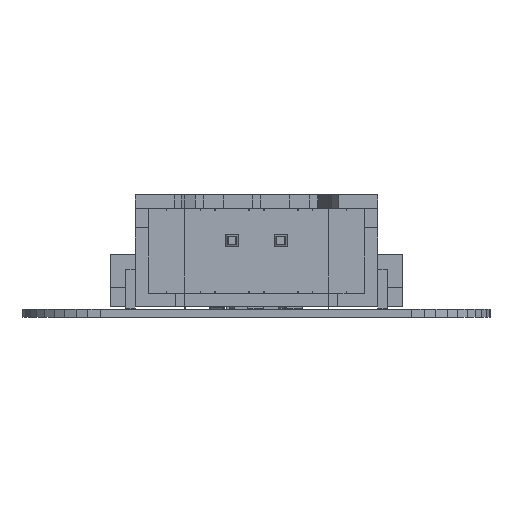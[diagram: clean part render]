
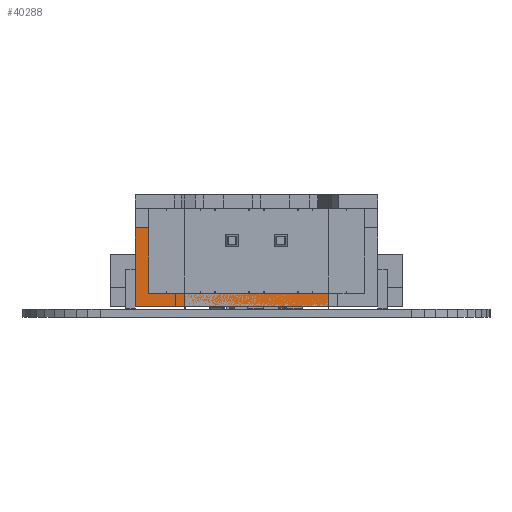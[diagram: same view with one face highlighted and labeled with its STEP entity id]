
A CAD part, front view. The second image highlights one B-rep face of the part: STEP entity #40288.
In plain terms, the highlighted planar face has unit normal (0, -1, 0) as drawn and (0, 1, 0) by its records, which use the part's own axes.
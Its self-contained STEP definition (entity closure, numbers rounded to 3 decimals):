
#39745 = PLANE('',#39746);
#39746 = AXIS2_PLACEMENT_3D('',#39747,#39748,#39749);
#39747 = CARTESIAN_POINT('',(-4.95,7.,-2.875));
#39748 = DIRECTION('',(1.,0.,0.));
#39749 = DIRECTION('',(0.,0.,-1.));
#39773 = PLANE('',#39774);
#39774 = AXIS2_PLACEMENT_3D('',#39775,#39776,#39777);
#39775 = CARTESIAN_POINT('',(-4.95,7.,-2.875));
#39776 = DIRECTION('',(0.,0.,1.));
#39777 = DIRECTION('',(1.,0.,0.));
#39827 = PLANE('',#39828);
#39828 = AXIS2_PLACEMENT_3D('',#39829,#39830,#39831);
#39829 = CARTESIAN_POINT('',(-4.95,7.,-2.175));
#39830 = DIRECTION('',(0.,0.,1.));
#39831 = DIRECTION('',(1.,0.,0.));
#39919 = VERTEX_POINT('',#39920);
#39920 = CARTESIAN_POINT('',(-4.95,7.,-2.175));
#39941 = EDGE_CURVE('',#39942,#39919,#39944,.T.);
#39942 = VERTEX_POINT('',#39943);
#39943 = CARTESIAN_POINT('',(-4.95,7.,-2.875));
#39944 = SURFACE_CURVE('',#39945,(#39949,#39956),.PCURVE_S1.);
#39945 = LINE('',#39946,#39947);
#39946 = CARTESIAN_POINT('',(-4.95,7.,-2.875));
#39947 = VECTOR('',#39948,1.);
#39948 = DIRECTION('',(0.,0.,1.));
#39949 = PCURVE('',#39745,#39950);
#39950 = DEFINITIONAL_REPRESENTATION('',(#39951),#39955);
#39951 = LINE('',#39952,#39953);
#39952 = CARTESIAN_POINT('',(0.,0.));
#39953 = VECTOR('',#39954,1.);
#39954 = DIRECTION('',(-1.,0.));
#39955 = ( GEOMETRIC_REPRESENTATION_CONTEXT(2) 
PARAMETRIC_REPRESENTATION_CONTEXT() REPRESENTATION_CONTEXT('2D SPACE',''
  ) );
#39956 = PCURVE('',#39957,#39962);
#39957 = PLANE('',#39958);
#39958 = AXIS2_PLACEMENT_3D('',#39959,#39960,#39961);
#39959 = CARTESIAN_POINT('',(-4.95,7.,-2.875));
#39960 = DIRECTION('',(0.,1.,0.));
#39961 = DIRECTION('',(0.,0.,1.));
#39962 = DEFINITIONAL_REPRESENTATION('',(#39963),#39967);
#39963 = LINE('',#39964,#39965);
#39964 = CARTESIAN_POINT('',(0.,0.));
#39965 = VECTOR('',#39966,1.);
#39966 = DIRECTION('',(1.,0.));
#39967 = ( GEOMETRIC_REPRESENTATION_CONTEXT(2) 
PARAMETRIC_REPRESENTATION_CONTEXT() REPRESENTATION_CONTEXT('2D SPACE',''
  ) );
#40288 = ADVANCED_FACE('',(#40289),#39957,.T.);
#40289 = FACE_BOUND('',#40290,.T.);
#40290 = EDGE_LOOP('',(#40291,#40292,#40315,#40343,#40371,#40399));
#40291 = ORIENTED_EDGE('',*,*,#39941,.T.);
#40292 = ORIENTED_EDGE('',*,*,#40293,.T.);
#40293 = EDGE_CURVE('',#39919,#40294,#40296,.T.);
#40294 = VERTEX_POINT('',#40295);
#40295 = CARTESIAN_POINT('',(4.25,7.,-2.175));
#40296 = SURFACE_CURVE('',#40297,(#40301,#40308),.PCURVE_S1.);
#40297 = LINE('',#40298,#40299);
#40298 = CARTESIAN_POINT('',(-4.95,7.,-2.175));
#40299 = VECTOR('',#40300,1.);
#40300 = DIRECTION('',(1.,0.,0.));
#40301 = PCURVE('',#39957,#40302);
#40302 = DEFINITIONAL_REPRESENTATION('',(#40303),#40307);
#40303 = LINE('',#40304,#40305);
#40304 = CARTESIAN_POINT('',(0.7,0.));
#40305 = VECTOR('',#40306,1.);
#40306 = DIRECTION('',(0.,1.));
#40307 = ( GEOMETRIC_REPRESENTATION_CONTEXT(2) 
PARAMETRIC_REPRESENTATION_CONTEXT() REPRESENTATION_CONTEXT('2D SPACE',''
  ) );
#40308 = PCURVE('',#39827,#40309);
#40309 = DEFINITIONAL_REPRESENTATION('',(#40310),#40314);
#40310 = LINE('',#40311,#40312);
#40311 = CARTESIAN_POINT('',(0.,0.));
#40312 = VECTOR('',#40313,1.);
#40313 = DIRECTION('',(1.,0.));
#40314 = ( GEOMETRIC_REPRESENTATION_CONTEXT(2) 
PARAMETRIC_REPRESENTATION_CONTEXT() REPRESENTATION_CONTEXT('2D SPACE',''
  ) );
#40315 = ORIENTED_EDGE('',*,*,#40316,.T.);
#40316 = EDGE_CURVE('',#40294,#40317,#40319,.T.);
#40317 = VERTEX_POINT('',#40318);
#40318 = CARTESIAN_POINT('',(4.25,7.,1.175));
#40319 = SURFACE_CURVE('',#40320,(#40324,#40331),.PCURVE_S1.);
#40320 = LINE('',#40321,#40322);
#40321 = CARTESIAN_POINT('',(4.25,7.,-2.875));
#40322 = VECTOR('',#40323,1.);
#40323 = DIRECTION('',(0.,0.,1.));
#40324 = PCURVE('',#39957,#40325);
#40325 = DEFINITIONAL_REPRESENTATION('',(#40326),#40330);
#40326 = LINE('',#40327,#40328);
#40327 = CARTESIAN_POINT('',(0.,9.2));
#40328 = VECTOR('',#40329,1.);
#40329 = DIRECTION('',(1.,0.));
#40330 = ( GEOMETRIC_REPRESENTATION_CONTEXT(2) 
PARAMETRIC_REPRESENTATION_CONTEXT() REPRESENTATION_CONTEXT('2D SPACE',''
  ) );
#40331 = PCURVE('',#40332,#40337);
#40332 = PLANE('',#40333);
#40333 = AXIS2_PLACEMENT_3D('',#40334,#40335,#40336);
#40334 = CARTESIAN_POINT('',(4.25,7.,-2.875));
#40335 = DIRECTION('',(-1.,0.,0.));
#40336 = DIRECTION('',(0.,0.,1.));
#40337 = DEFINITIONAL_REPRESENTATION('',(#40338),#40342);
#40338 = LINE('',#40339,#40340);
#40339 = CARTESIAN_POINT('',(0.,0.));
#40340 = VECTOR('',#40341,1.);
#40341 = DIRECTION('',(1.,0.));
#40342 = ( GEOMETRIC_REPRESENTATION_CONTEXT(2) 
PARAMETRIC_REPRESENTATION_CONTEXT() REPRESENTATION_CONTEXT('2D SPACE',''
  ) );
#40343 = ORIENTED_EDGE('',*,*,#40344,.T.);
#40344 = EDGE_CURVE('',#40317,#40345,#40347,.T.);
#40345 = VERTEX_POINT('',#40346);
#40346 = CARTESIAN_POINT('',(4.95,7.,1.175));
#40347 = SURFACE_CURVE('',#40348,(#40352,#40359),.PCURVE_S1.);
#40348 = LINE('',#40349,#40350);
#40349 = CARTESIAN_POINT('',(-10.,7.,1.175));
#40350 = VECTOR('',#40351,1.);
#40351 = DIRECTION('',(1.,0.,0.));
#40352 = PCURVE('',#39957,#40353);
#40353 = DEFINITIONAL_REPRESENTATION('',(#40354),#40358);
#40354 = LINE('',#40355,#40356);
#40355 = CARTESIAN_POINT('',(4.05,-5.05));
#40356 = VECTOR('',#40357,1.);
#40357 = DIRECTION('',(0.,1.));
#40358 = ( GEOMETRIC_REPRESENTATION_CONTEXT(2) 
PARAMETRIC_REPRESENTATION_CONTEXT() REPRESENTATION_CONTEXT('2D SPACE',''
  ) );
#40359 = PCURVE('',#40360,#40365);
#40360 = PLANE('',#40361);
#40361 = AXIS2_PLACEMENT_3D('',#40362,#40363,#40364);
#40362 = CARTESIAN_POINT('',(-10.,7.,1.175));
#40363 = DIRECTION('',(0.,0.,-1.));
#40364 = DIRECTION('',(0.,1.,0.));
#40365 = DEFINITIONAL_REPRESENTATION('',(#40366),#40370);
#40366 = LINE('',#40367,#40368);
#40367 = CARTESIAN_POINT('',(0.,0.));
#40368 = VECTOR('',#40369,1.);
#40369 = DIRECTION('',(0.,1.));
#40370 = ( GEOMETRIC_REPRESENTATION_CONTEXT(2) 
PARAMETRIC_REPRESENTATION_CONTEXT() REPRESENTATION_CONTEXT('2D SPACE',''
  ) );
#40371 = ORIENTED_EDGE('',*,*,#40372,.T.);
#40372 = EDGE_CURVE('',#40345,#40373,#40375,.T.);
#40373 = VERTEX_POINT('',#40374);
#40374 = CARTESIAN_POINT('',(4.95,7.,-2.875));
#40375 = SURFACE_CURVE('',#40376,(#40380,#40387),.PCURVE_S1.);
#40376 = LINE('',#40377,#40378);
#40377 = CARTESIAN_POINT('',(4.95,7.,-2.875));
#40378 = VECTOR('',#40379,1.);
#40379 = DIRECTION('',(0.,0.,-1.));
#40380 = PCURVE('',#39957,#40381);
#40381 = DEFINITIONAL_REPRESENTATION('',(#40382),#40386);
#40382 = LINE('',#40383,#40384);
#40383 = CARTESIAN_POINT('',(0.,9.9));
#40384 = VECTOR('',#40385,1.);
#40385 = DIRECTION('',(-1.,0.));
#40386 = ( GEOMETRIC_REPRESENTATION_CONTEXT(2) 
PARAMETRIC_REPRESENTATION_CONTEXT() REPRESENTATION_CONTEXT('2D SPACE',''
  ) );
#40387 = PCURVE('',#40388,#40393);
#40388 = PLANE('',#40389);
#40389 = AXIS2_PLACEMENT_3D('',#40390,#40391,#40392);
#40390 = CARTESIAN_POINT('',(4.95,7.,-2.875));
#40391 = DIRECTION('',(-1.,0.,0.));
#40392 = DIRECTION('',(0.,0.,1.));
#40393 = DEFINITIONAL_REPRESENTATION('',(#40394),#40398);
#40394 = LINE('',#40395,#40396);
#40395 = CARTESIAN_POINT('',(0.,0.));
#40396 = VECTOR('',#40397,1.);
#40397 = DIRECTION('',(-1.,0.));
#40398 = ( GEOMETRIC_REPRESENTATION_CONTEXT(2) 
PARAMETRIC_REPRESENTATION_CONTEXT() REPRESENTATION_CONTEXT('2D SPACE',''
  ) );
#40399 = ORIENTED_EDGE('',*,*,#40400,.T.);
#40400 = EDGE_CURVE('',#40373,#39942,#40401,.T.);
#40401 = SURFACE_CURVE('',#40402,(#40406,#40413),.PCURVE_S1.);
#40402 = LINE('',#40403,#40404);
#40403 = CARTESIAN_POINT('',(-4.95,7.,-2.875));
#40404 = VECTOR('',#40405,1.);
#40405 = DIRECTION('',(-1.,0.,0.));
#40406 = PCURVE('',#39957,#40407);
#40407 = DEFINITIONAL_REPRESENTATION('',(#40408),#40412);
#40408 = LINE('',#40409,#40410);
#40409 = CARTESIAN_POINT('',(0.,0.));
#40410 = VECTOR('',#40411,1.);
#40411 = DIRECTION('',(0.,-1.));
#40412 = ( GEOMETRIC_REPRESENTATION_CONTEXT(2) 
PARAMETRIC_REPRESENTATION_CONTEXT() REPRESENTATION_CONTEXT('2D SPACE',''
  ) );
#40413 = PCURVE('',#39773,#40414);
#40414 = DEFINITIONAL_REPRESENTATION('',(#40415),#40419);
#40415 = LINE('',#40416,#40417);
#40416 = CARTESIAN_POINT('',(0.,0.));
#40417 = VECTOR('',#40418,1.);
#40418 = DIRECTION('',(-1.,0.));
#40419 = ( GEOMETRIC_REPRESENTATION_CONTEXT(2) 
PARAMETRIC_REPRESENTATION_CONTEXT() REPRESENTATION_CONTEXT('2D SPACE',''
  ) );
